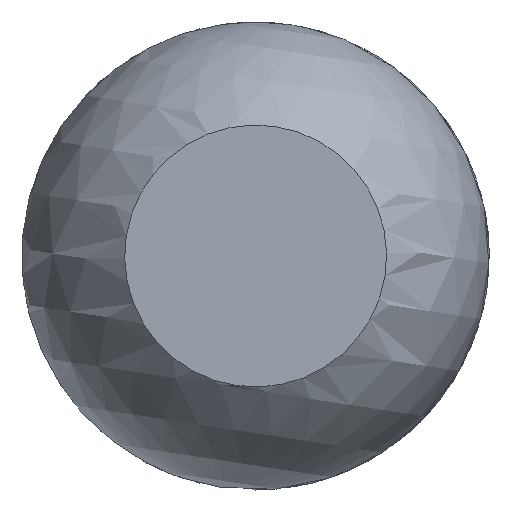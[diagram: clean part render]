
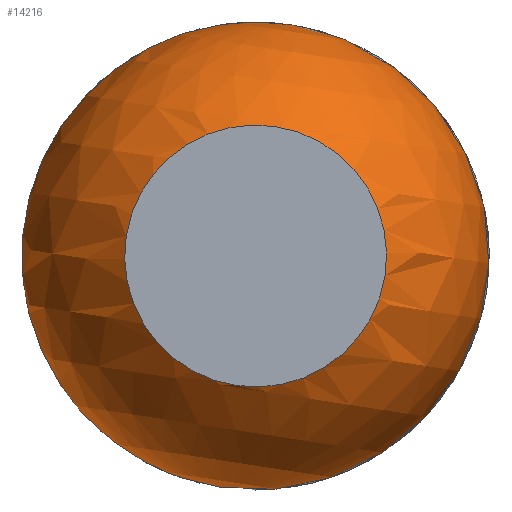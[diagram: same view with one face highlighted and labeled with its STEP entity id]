
A CAD part, left-side view. The second image highlights one B-rep face of the part: STEP entity #14216.
In plain terms, the highlighted spherical face has radius 18.326 mm.
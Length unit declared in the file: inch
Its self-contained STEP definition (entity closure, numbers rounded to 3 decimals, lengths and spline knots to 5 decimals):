
#38=SPHERICAL_SURFACE('',#15103,0.7215);
#190=FACE_BOUND('',#2580,.T.);
#191=FACE_BOUND('',#2581,.T.);
#2580=EDGE_LOOP('',(#13279));
#2581=EDGE_LOOP('',(#13280));
#4986=CIRCLE('',#15101,0.45167);
#4987=CIRCLE('',#15104,0.4038);
#7061=VERTEX_POINT('',#33197);
#7062=VERTEX_POINT('',#33201);
#9134=EDGE_CURVE('',#7061,#7061,#4986,.T.);
#9135=EDGE_CURVE('',#7062,#7062,#4987,.T.);
#13279=ORIENTED_EDGE('',*,*,#9135,.T.);
#13280=ORIENTED_EDGE('',*,*,#9134,.F.);
#14216=ADVANCED_FACE('',(#190,#191),#38,.T.);
#15101=AXIS2_PLACEMENT_3D('',#33198,#17801,#17802);
#15103=AXIS2_PLACEMENT_3D('',#33200,#17805,#17806);
#15104=AXIS2_PLACEMENT_3D('',#33202,#17807,#17808);
#17801=DIRECTION('center_axis',(1.,0.,0.));
#17802=DIRECTION('ref_axis',(0.,0.,-1.));
#17805=DIRECTION('center_axis',(0.,0.,1.));
#17806=DIRECTION('ref_axis',(1.,0.,0.));
#17807=DIRECTION('center_axis',(1.,0.,0.));
#17808=DIRECTION('ref_axis',(0.,0.,-1.));
#33197=CARTESIAN_POINT('',(-92.86011,-81.52687,0.));
#33198=CARTESIAN_POINT('Origin',(-92.86011,-81.97854,0.));
#33200=CARTESIAN_POINT('Origin',(-93.42274,-81.97854,0.));
#33201=CARTESIAN_POINT('',(-94.02066,-81.57473,0.));
#33202=CARTESIAN_POINT('Origin',(-94.02066,-81.97854,0.));
